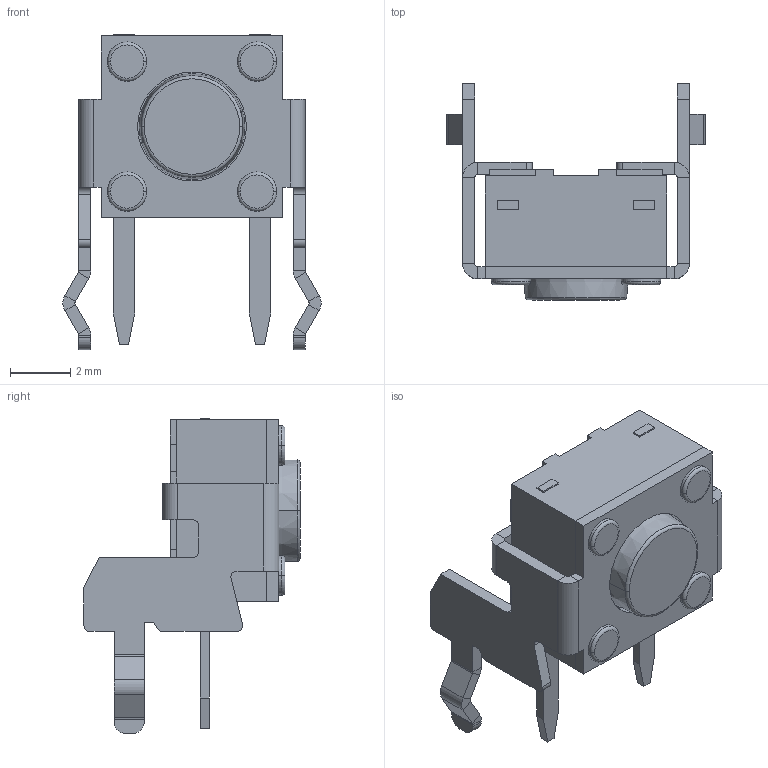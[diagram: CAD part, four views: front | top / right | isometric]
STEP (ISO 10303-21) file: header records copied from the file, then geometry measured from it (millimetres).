
FILE_DESCRIPTION((''),'2;1');
FILE_NAME('JQC6060-C0501-01G-104_ASM','2026-05-25T15:00:01',('Admin'),(''),'CREO PARAMETRIC BY PTC INC, 2019224','CREO PARAMETRIC BY PTC INC, 2019224','');
FILE_SCHEMA(('AUTOMOTIVE_DESIGN { 1 0 10303 214 1 1 1 1 }'));
Length unit declared in the file: millimetre
Products named in the file (3): JQC6060-C0501-01G-104_05; JQC6060-C0501-01G-104_04; JQC6060-C0501-01G-104_ASM
Assembly tree (2 placements, depth 2):
  JQC6060-C0501-01G-104_ASM
    JQC6060-C0501-01G-104_05
    JQC6060-C0501-01G-104_04
Bounding box: 8.55 x 7.15 x 10.43 mm (x, y, z)
Volume: 155.5 mm3; surface area: 390.3 mm2
Topology: 2 solids, 2 shells, 231 faces, 566 edges, 367 vertices
Faces by surface type: plane 163, cylinder 56, torus 10, cone 2
Entity records: 7779 total; most frequent: DIRECTION 1186, CARTESIAN_POINT 1154, ORIENTED_EDGE 1104, EDGE_CURVE 552, VECTOR 430, LINE 430, AXIS2_PLACEMENT_3D 378, VERTEX_POINT 338
